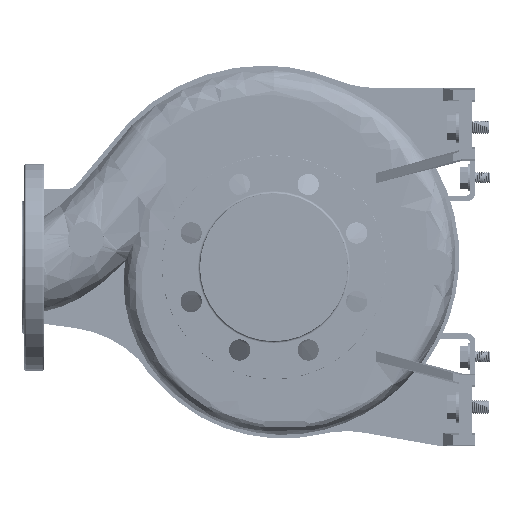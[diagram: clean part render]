
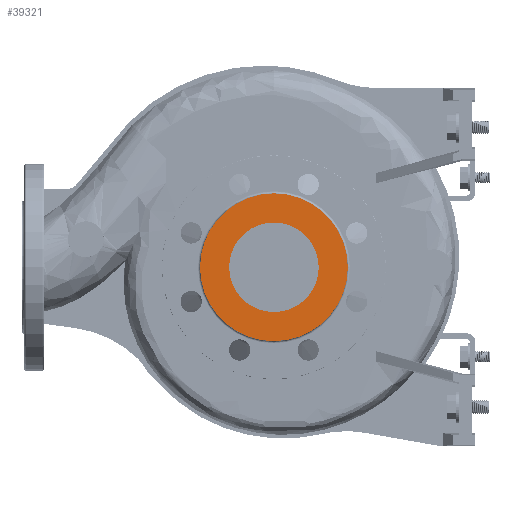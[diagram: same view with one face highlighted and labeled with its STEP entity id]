
A CAD part, left-side view. The second image highlights one B-rep face of the part: STEP entity #39321.
In plain terms, the highlighted planar face has unit normal (-1, 0, 0).
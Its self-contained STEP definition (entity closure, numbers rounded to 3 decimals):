
#5343 = CARTESIAN_POINT ( 'NONE',  ( -100., -66., 0. ) ) ;
#6293 = DIRECTION ( 'NONE',  ( 0., -1., 0. ) ) ;
#8146 = VERTEX_POINT ( 'NONE', #99298 ) ;
#9152 = DIRECTION ( 'NONE',  ( -1., 0., 0. ) ) ;
#10947 = VERTEX_POINT ( 'NONE', #144697 ) ;
#13291 = EDGE_CURVE ( 'NONE', #10947, #61361, #50899, .T. ) ;
#14716 = CIRCLE ( 'NONE', #91501, 40. ) ;
#20387 = EDGE_CURVE ( 'NONE', #8146, #184446, #112937, .T. ) ;
#24447 = PLANE ( 'NONE',  #112432 ) ;
#35539 = EDGE_CURVE ( 'NONE', #61361, #10947, #72268, .T. ) ;
#38466 = CARTESIAN_POINT ( 'NONE',  ( -100., 0., 0. ) ) ;
#38726 = AXIS2_PLACEMENT_3D ( 'NONE', #38466, #80704, #50968 ) ;
#39312 = EDGE_LOOP ( 'NONE', ( #107476, #150380 ) ) ;
#39321 = ADVANCED_FACE ( 'NONE', ( #67677, #55142 ), #24447, .T. ) ;
#47319 = EDGE_LOOP ( 'NONE', ( #123289, #54538 ) ) ;
#50899 = CIRCLE ( 'NONE', #38726, 66. ) ;
#50968 = DIRECTION ( 'NONE',  ( 0., 1., 0. ) ) ;
#54216 = CARTESIAN_POINT ( 'NONE',  ( -100., 0., 0. ) ) ;
#54538 = ORIENTED_EDGE ( 'NONE', *, *, #35539, .F. ) ;
#55142 = FACE_OUTER_BOUND ( 'NONE', #47319, .T. ) ;
#61361 = VERTEX_POINT ( 'NONE', #5343 ) ;
#67677 = FACE_BOUND ( 'NONE', #39312, .T. ) ;
#72192 = CARTESIAN_POINT ( 'NONE',  ( -100., 40., 0. ) ) ;
#72268 = CIRCLE ( 'NONE', #176436, 66. ) ;
#78690 = DIRECTION ( 'NONE',  ( 0., -1., 0. ) ) ;
#80704 = DIRECTION ( 'NONE',  ( 1., 0., 0. ) ) ;
#82223 = AXIS2_PLACEMENT_3D ( 'NONE', #140736, #9152, #6293 ) ;
#91501 = AXIS2_PLACEMENT_3D ( 'NONE', #124774, #155481, #78690 ) ;
#97460 = DIRECTION ( 'NONE',  ( -1., 0., 0. ) ) ;
#97959 = CARTESIAN_POINT ( 'NONE',  ( -100., 0., 0. ) ) ;
#99298 = CARTESIAN_POINT ( 'NONE',  ( -100., -40., 0. ) ) ;
#107476 = ORIENTED_EDGE ( 'NONE', *, *, #20387, .F. ) ;
#112432 = AXIS2_PLACEMENT_3D ( 'NONE', #54216, #97460, #126247 ) ;
#112937 = CIRCLE ( 'NONE', #82223, 40. ) ;
#123289 = ORIENTED_EDGE ( 'NONE', *, *, #13291, .F. ) ;
#124774 = CARTESIAN_POINT ( 'NONE',  ( -100., 0., 0. ) ) ;
#126247 = DIRECTION ( 'NONE',  ( 0., -1., 0. ) ) ;
#139239 = DIRECTION ( 'NONE',  ( 1., 0., 0. ) ) ;
#140736 = CARTESIAN_POINT ( 'NONE',  ( -100., 0., 0. ) ) ;
#144697 = CARTESIAN_POINT ( 'NONE',  ( -100., 66., 0. ) ) ;
#150380 = ORIENTED_EDGE ( 'NONE', *, *, #181161, .F. ) ;
#155481 = DIRECTION ( 'NONE',  ( -1., 0., 0. ) ) ;
#156497 = DIRECTION ( 'NONE',  ( 0., 1., 0. ) ) ;
#176436 = AXIS2_PLACEMENT_3D ( 'NONE', #97959, #139239, #156497 ) ;
#181161 = EDGE_CURVE ( 'NONE', #184446, #8146, #14716, .T. ) ;
#184446 = VERTEX_POINT ( 'NONE', #72192 ) ;
